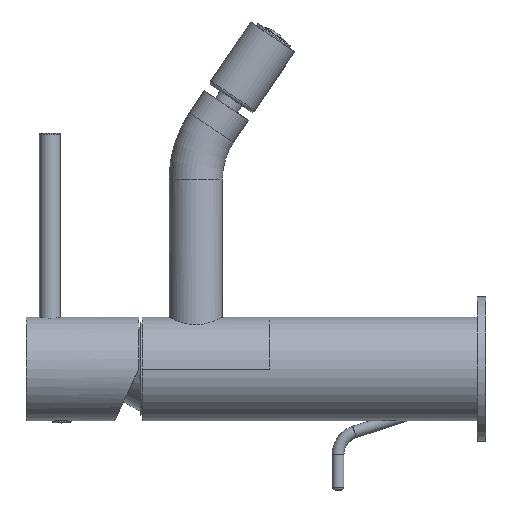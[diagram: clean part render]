
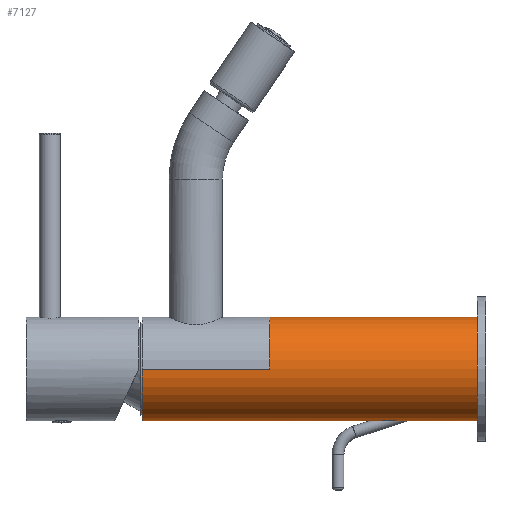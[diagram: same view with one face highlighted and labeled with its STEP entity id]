
A CAD part, left-side view. The second image highlights one B-rep face of the part: STEP entity #7127.
In plain terms, the highlighted cylindrical face has radius 17.5 mm (diameter 35 mm), a partial arc.
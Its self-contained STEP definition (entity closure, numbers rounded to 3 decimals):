
#181=CARTESIAN_POINT('',(0.,5.,0.));
#182=DIRECTION('',(0.,1.,0.));
#183=DIRECTION('',(-1.,0.,0.));
#184=AXIS2_PLACEMENT_3D('',#181,#182,#183);
#191=CARTESIAN_POINT('',(0.,-42.281,-17.5));
#229=CARTESIAN_POINT('',(0.,-27.719,-17.5));
#306=CARTESIAN_POINT('',(0.,-65.,0.));
#307=DIRECTION('',(0.,1.,0.));
#308=DIRECTION('',(0.,0.,-1.));
#309=AXIS2_PLACEMENT_3D('',#306,#307,#308);
#311=DIRECTION('',(0.,-1.,0.));
#312=VECTOR('',#311,22.719);
#313=CARTESIAN_POINT('',(0.,-42.281,-17.5));
#314=LINE('',#313,#312);
#315=CARTESIAN_POINT('',(0.,-27.719,-17.5));
#316=CARTESIAN_POINT('',(-0.046,-27.719,-17.5));
#317=CARTESIAN_POINT('',(-0.14,-27.729,
-17.5));
#318=CARTESIAN_POINT('',(-0.289,-27.78,
-17.498));
#319=CARTESIAN_POINT('',(-0.44,-27.87,
-17.495));
#320=CARTESIAN_POINT('',(-0.591,-27.998,
-17.49));
#321=CARTESIAN_POINT('',(-0.74,-28.165,
-17.485));
#322=CARTESIAN_POINT('',(-0.885,-28.367,
-17.478));
#323=CARTESIAN_POINT('',(-1.026,-28.606,
-17.47));
#324=CARTESIAN_POINT('',(-1.164,-28.881,
-17.461));
#325=CARTESIAN_POINT('',(-1.299,-29.194,
-17.452));
#326=CARTESIAN_POINT('',(-1.429,-29.548,
-17.442));
#327=CARTESIAN_POINT('',(-1.556,-29.944,
-17.431));
#328=CARTESIAN_POINT('',(-1.678,-30.386,
-17.419));
#329=CARTESIAN_POINT('',(-1.794,-30.877,
-17.408));
#330=CARTESIAN_POINT('',(-1.904,-31.422,
-17.396));
#331=CARTESIAN_POINT('',(-2.005,-32.027,
-17.385));
#332=CARTESIAN_POINT('',(-2.095,-32.695,
-17.374));
#333=CARTESIAN_POINT('',(-2.17,-33.437,
-17.365));
#334=CARTESIAN_POINT('',(-2.225,-34.251,
-17.358));
#335=CARTESIAN_POINT('',(-2.255,-35.177,
-17.354));
#336=CARTESIAN_POINT('',(-2.246,-36.161,
-17.355));
#337=CARTESIAN_POINT('',(-2.2,-37.036,
-17.361));
#338=CARTESIAN_POINT('',(-2.129,-37.802,
-17.37));
#339=CARTESIAN_POINT('',(-2.038,-38.483,
-17.381));
#340=CARTESIAN_POINT('',(-1.931,-39.091,
-17.393));
#341=CARTESIAN_POINT('',(-1.809,-39.635,
-17.406));
#342=CARTESIAN_POINT('',(-1.676,-40.119,
-17.42));
#343=CARTESIAN_POINT('',(-1.533,-40.549,
-17.433));
#344=CARTESIAN_POINT('',(-1.381,-40.928,
-17.446));
#345=CARTESIAN_POINT('',(-1.221,-41.258,
-17.458));
#346=CARTESIAN_POINT('',(-1.054,-41.54,
-17.469));
#347=CARTESIAN_POINT('',(-0.881,-41.777,
-17.478));
#348=CARTESIAN_POINT('',(-0.702,-41.969,
-17.486));
#349=CARTESIAN_POINT('',(-0.522,-42.114,
-17.493));
#350=CARTESIAN_POINT('',(-0.343,-42.213,
-17.497));
#351=CARTESIAN_POINT('',(-0.168,-42.27,
-17.499));
#352=CARTESIAN_POINT('',(-0.055,-42.281,-17.5));
#353=CARTESIAN_POINT('',(0.,-42.281,-17.5));
#355=DIRECTION('',(0.,-1.,0.));
#356=VECTOR('',#355,32.719);
#357=CARTESIAN_POINT('',(0.,5.,-17.5));
#358=LINE('',#357,#356);
#359=CARTESIAN_POINT('',(0.,5.,0.));
#360=DIRECTION('',(0.,1.,0.));
#361=DIRECTION('',(1.,0.,0.));
#362=AXIS2_PLACEMENT_3D('',#359,#360,#361);
#364=DIRECTION('',(0.,-1.,0.));
#365=VECTOR('',#364,43.);
#366=CARTESIAN_POINT('',(17.5,48.,0.));
#367=LINE('',#366,#365);
#368=CARTESIAN_POINT('',(0.,48.,0.));
#369=DIRECTION('',(0.,-1.,0.));
#370=DIRECTION('',(-1.,0.,0.));
#371=AXIS2_PLACEMENT_3D('',#368,#369,#370);
#373=DIRECTION('',(0.,-1.,0.));
#374=VECTOR('',#373,43.);
#375=CARTESIAN_POINT('',(-17.5,48.,0.));
#376=LINE('',#375,#374);
#377=DIRECTION('',(0.,-1.,0.));
#378=VECTOR('',#377,70.);
#379=CARTESIAN_POINT('',(0.,5.,17.5));
#380=LINE('',#379,#378);
#5487=CARTESIAN_POINT('',(-17.5,48.,0.));
#5488=CARTESIAN_POINT('',(17.5,48.,0.));
#5489=VERTEX_POINT('',#5487);
#5490=VERTEX_POINT('',#5488);
#5602=VERTEX_POINT('',#191);
#5603=VERTEX_POINT('',#229);
#5606=CARTESIAN_POINT('',(-17.5,5.,0.));
#5607=CARTESIAN_POINT('',(0.,5.,17.5));
#5608=VERTEX_POINT('',#5606);
#5609=VERTEX_POINT('',#5607);
#5610=CARTESIAN_POINT('',(17.5,5.,0.));
#5611=CARTESIAN_POINT('',(0.,5.,-17.5));
#5612=VERTEX_POINT('',#5610);
#5613=VERTEX_POINT('',#5611);
#6263=CARTESIAN_POINT('',(0.,-65.,17.5));
#6264=CARTESIAN_POINT('',(0.,-65.,-17.5));
#6265=VERTEX_POINT('',#6263);
#6266=VERTEX_POINT('',#6264);
#7107=CARTESIAN_POINT('',(0.,-2.4,0.));
#7108=DIRECTION('',(0.,1.,0.));
#7109=DIRECTION('',(1.,0.,0.));
#7110=AXIS2_PLACEMENT_3D('',#7107,#7108,#7109);
#7111=CYLINDRICAL_SURFACE('',#7110,17.5);
#7113=ORIENTED_EDGE('',*,*,#7112,.F.);
#7114=ORIENTED_EDGE('',*,*,#7095,.F.);
#7116=ORIENTED_EDGE('',*,*,#7115,.F.);
#7117=ORIENTED_EDGE('',*,*,#7091,.F.);
#7118=ORIENTED_EDGE('',*,*,#7089,.F.);
#7119=ORIENTED_EDGE('',*,*,#7087,.F.);
#7121=ORIENTED_EDGE('',*,*,#7120,.F.);
#7122=ORIENTED_EDGE('',*,*,#7083,.T.);
#7123=ORIENTED_EDGE('',*,*,#7081,.T.);
#7124=ORIENTED_EDGE('',*,*,#7079,.T.);
#7125=EDGE_LOOP('',(#7113,#7114,#7116,#7117,#7118,#7119,#7121,#7122,#7123,
#7124));
#7126=FACE_OUTER_BOUND('',#7125,.F.);
#7127=ADVANCED_FACE('',(#7126),#7111,.T.);
#185=CIRCLE('',#184,17.5);
#310=CIRCLE('',#309,17.5);
#354=B_SPLINE_CURVE_WITH_KNOTS('',3,(#315,#316,#317,#318,#319,#320,#321,#322,
#323,#324,#325,#326,#327,#328,#329,#330,#331,#332,#333,#334,#335,#336,#337,#338,
#339,#340,#341,#342,#343,#344,#345,#346,#347,#348,#349,#350,#351,#352,#353),
.UNSPECIFIED.,.F.,.F.,(4,1,1,1,1,1,1,1,1,1,1,1,1,1,1,1,1,1,1,1,1,1,1,1,1,1,1,1,
1,1,1,1,1,1,1,1,4),(0.,0.028,0.056,0.083,
0.111,0.139,0.167,0.194,
0.222,0.25,0.278,0.306,0.333,
0.361,0.389,0.417,0.444,
0.472,0.5,0.528,0.556,0.583,
0.611,0.639,0.667,0.694,
0.722,0.75,0.778,0.806,0.833,
0.861,0.889,0.917,0.944,
0.972,1.),.UNSPECIFIED.);
#363=CIRCLE('',#362,17.5);
#372=CIRCLE('',#371,17.5);
#7079=EDGE_CURVE('',#5609,#6265,#380,.T.);
#7081=EDGE_CURVE('',#5608,#5609,#185,.T.);
#7083=EDGE_CURVE('',#5489,#5608,#376,.T.);
#7087=EDGE_CURVE('',#5490,#5612,#367,.T.);
#7089=EDGE_CURVE('',#5612,#5613,#363,.T.);
#7091=EDGE_CURVE('',#5613,#5603,#358,.T.);
#7095=EDGE_CURVE('',#5602,#6266,#314,.T.);
#7112=EDGE_CURVE('',#6266,#6265,#310,.T.);
#7115=EDGE_CURVE('',#5603,#5602,#354,.T.);
#7120=EDGE_CURVE('',#5489,#5490,#372,.T.);
